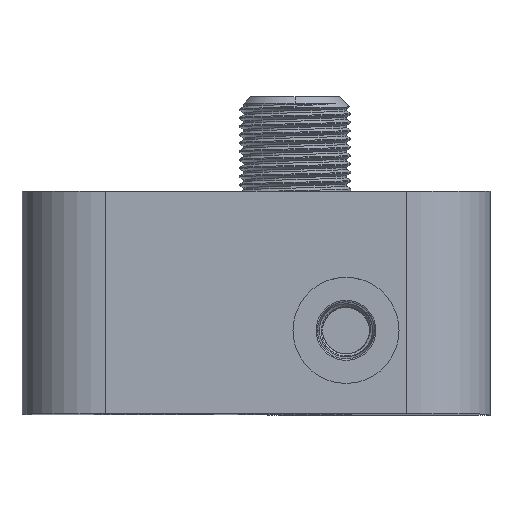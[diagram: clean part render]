
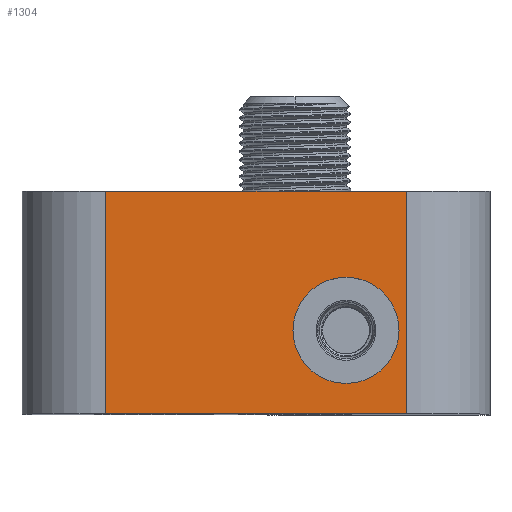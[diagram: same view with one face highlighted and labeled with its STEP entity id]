
A CAD part, top view. The second image highlights one B-rep face of the part: STEP entity #1304.
In plain terms, the highlighted planar face has unit normal (0, 0, 1).
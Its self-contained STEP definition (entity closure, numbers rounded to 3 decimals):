
#241 = DIRECTION ( 'NONE',  ( -1., 0., 0. ) ) ;
#1045 = EDGE_CURVE ( 'NONE', #14744, #1535, #13251, .T. ) ;
#1304 = ADVANCED_FACE ( 'NONE', ( #22361, #1677 ), #25099, .F. ) ;
#1535 = VERTEX_POINT ( 'NONE', #12559 ) ;
#1677 = FACE_OUTER_BOUND ( 'NONE', #16297, .T. ) ;
#2016 = DIRECTION ( 'NONE',  ( 0., -1., 0. ) ) ;
#2526 = VERTEX_POINT ( 'NONE', #20770 ) ;
#2739 = AXIS2_PLACEMENT_3D ( 'NONE', #18679, #27952, #241 ) ;
#3199 = ORIENTED_EDGE ( 'NONE', *, *, #24576, .F. ) ;
#3223 = LINE ( 'NONE', #11846, #16284 ) ;
#3278 = LINE ( 'NONE', #11690, #15949 ) ;
#4135 = VERTEX_POINT ( 'NONE', #11317 ) ;
#4619 = VERTEX_POINT ( 'NONE', #29493 ) ;
#5205 = ORIENTED_EDGE ( 'NONE', *, *, #26591, .F. ) ;
#5254 = DIRECTION ( 'NONE',  ( 1., 0., 0. ) ) ;
#6984 = CIRCLE ( 'NONE', #28807, 9.525 ) ;
#7472 = DIRECTION ( 'NONE',  ( 0., -1., 0. ) ) ;
#7541 = EDGE_CURVE ( 'NONE', #4135, #12574, #6984, .T. ) ;
#8775 = DIRECTION ( 'NONE',  ( 0., 0., 1. ) ) ;
#9265 = ORIENTED_EDGE ( 'NONE', *, *, #1045, .T. ) ;
#9572 = EDGE_LOOP ( 'NONE', ( #19102, #3199 ) ) ;
#9609 = DIRECTION ( 'NONE',  ( 1., 0., 0. ) ) ;
#9840 = LINE ( 'NONE', #13341, #12009 ) ;
#10098 = CARTESIAN_POINT ( 'NONE',  ( -8.151, 0., 35. ) ) ;
#11317 = CARTESIAN_POINT ( 'NONE',  ( 44.525, 15., 35. ) ) ;
#11690 = CARTESIAN_POINT ( 'NONE',  ( -20.891, 40., 35. ) ) ;
#11846 = CARTESIAN_POINT ( 'NONE',  ( -8.151, 40., 35. ) ) ;
#12009 = VECTOR ( 'NONE', #2016, 1000. ) ;
#12559 = CARTESIAN_POINT ( 'NONE',  ( 45.85, 0., 35. ) ) ;
#12574 = VERTEX_POINT ( 'NONE', #16263 ) ;
#12780 = EDGE_CURVE ( 'NONE', #4619, #2526, #3278, .T. ) ;
#13064 = CIRCLE ( 'NONE', #29520, 9.525 ) ;
#13251 = LINE ( 'NONE', #25960, #23097 ) ;
#13341 = CARTESIAN_POINT ( 'NONE',  ( 45.85, 40., 35. ) ) ;
#14109 = DIRECTION ( 'NONE',  ( 1., 0., 0. ) ) ;
#14209 = DIRECTION ( 'NONE',  ( 0., 0., 1. ) ) ;
#14744 = VERTEX_POINT ( 'NONE', #10098 ) ;
#15395 = EDGE_CURVE ( 'NONE', #4619, #14744, #3223, .T. ) ;
#15949 = VECTOR ( 'NONE', #5254, 1000. ) ;
#16263 = CARTESIAN_POINT ( 'NONE',  ( 25.475, 15., 35. ) ) ;
#16284 = VECTOR ( 'NONE', #7472, 1000. ) ;
#16297 = EDGE_LOOP ( 'NONE', ( #29017, #22540, #9265, #5205 ) ) ;
#18017 = CARTESIAN_POINT ( 'NONE',  ( 35., 15., 35. ) ) ;
#18679 = CARTESIAN_POINT ( 'NONE',  ( 25.85, 40., 35. ) ) ;
#19102 = ORIENTED_EDGE ( 'NONE', *, *, #7541, .F. ) ;
#20770 = CARTESIAN_POINT ( 'NONE',  ( 45.85, 40., 35. ) ) ;
#22361 = FACE_BOUND ( 'NONE', #9572, .T. ) ;
#22540 = ORIENTED_EDGE ( 'NONE', *, *, #15395, .T. ) ;
#23097 = VECTOR ( 'NONE', #9609, 1000. ) ;
#23447 = CARTESIAN_POINT ( 'NONE',  ( 35., 15., 35. ) ) ;
#24576 = EDGE_CURVE ( 'NONE', #12574, #4135, #13064, .T. ) ;
#25099 = PLANE ( 'NONE',  #2739 ) ;
#25342 = DIRECTION ( 'NONE',  ( 1., 0., 0. ) ) ;
#25960 = CARTESIAN_POINT ( 'NONE',  ( 25.85, 0., 35. ) ) ;
#26591 = EDGE_CURVE ( 'NONE', #2526, #1535, #9840, .T. ) ;
#27952 = DIRECTION ( 'NONE',  ( 0., 0., -1. ) ) ;
#28807 = AXIS2_PLACEMENT_3D ( 'NONE', #18017, #8775, #25342 ) ;
#29017 = ORIENTED_EDGE ( 'NONE', *, *, #12780, .F. ) ;
#29493 = CARTESIAN_POINT ( 'NONE',  ( -8.151, 40., 35. ) ) ;
#29520 = AXIS2_PLACEMENT_3D ( 'NONE', #23447, #14209, #14109 ) ;
